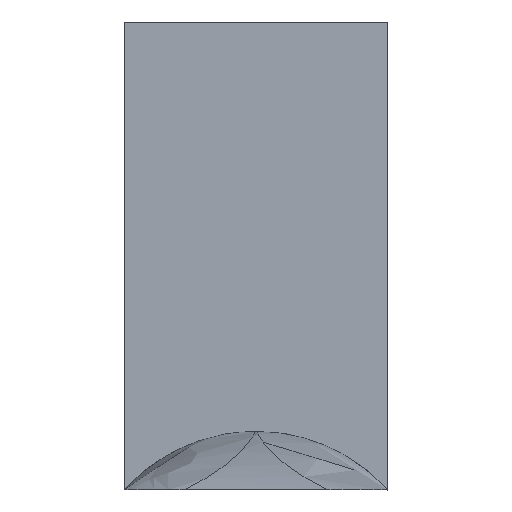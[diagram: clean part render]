
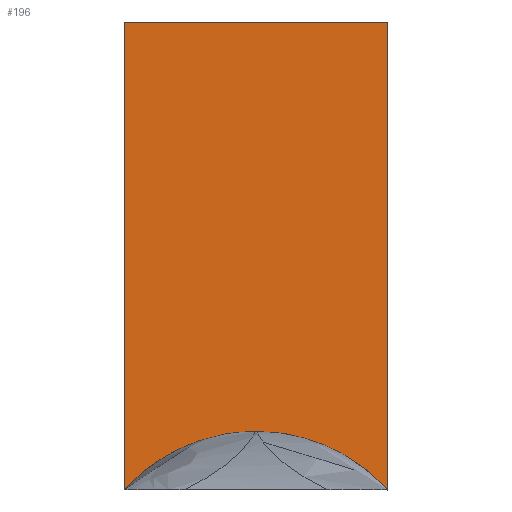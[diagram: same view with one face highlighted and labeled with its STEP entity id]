
A CAD part, left-side view. The second image highlights one B-rep face of the part: STEP entity #196.
In plain terms, the highlighted planar face has unit normal (-1, 0, 0).
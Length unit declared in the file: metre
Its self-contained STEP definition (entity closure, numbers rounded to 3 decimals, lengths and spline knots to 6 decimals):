
#25=LINE('',#274,#43);
#26=LINE('',#276,#44);
#27=LINE('',#278,#45);
#28=LINE('',#282,#46);
#43=VECTOR('',#231,1.);
#44=VECTOR('',#232,1.);
#45=VECTOR('',#233,1.);
#46=VECTOR('',#236,1.);
#61=ORIENTED_EDGE('',*,*,#117,.T.);
#62=ORIENTED_EDGE('',*,*,#118,.T.);
#63=ORIENTED_EDGE('',*,*,#119,.T.);
#64=ORIENTED_EDGE('',*,*,#120,.F.);
#65=ORIENTED_EDGE('',*,*,#121,.T.);
#66=ORIENTED_EDGE('',*,*,#122,.T.);
#117=EDGE_CURVE('',#145,#146,#163,.F.);
#118=EDGE_CURVE('',#146,#147,#25,.T.);
#119=EDGE_CURVE('',#147,#148,#26,.T.);
#120=EDGE_CURVE('',#149,#148,#27,.T.);
#121=EDGE_CURVE('',#149,#150,#164,.T.);
#122=EDGE_CURVE('',#150,#145,#28,.F.);
#145=VERTEX_POINT('',#272);
#146=VERTEX_POINT('',#273);
#147=VERTEX_POINT('',#275);
#148=VERTEX_POINT('',#277);
#149=VERTEX_POINT('',#279);
#150=VERTEX_POINT('',#281);
#163=CIRCLE('',#214,0.0003);
#164=CIRCLE('',#215,0.0003);
#165=EDGE_LOOP('',(#61,#62,#63,#64,#65,#66));
#177=FACE_BOUND('',#165,.T.);
#189=PLANE('',#213);
#196=ADVANCED_FACE('',(#177),#189,.F.);
#213=AXIS2_PLACEMENT_3D('',#270,#227,#228);
#214=AXIS2_PLACEMENT_3D('',#271,#229,#230);
#215=AXIS2_PLACEMENT_3D('',#280,#234,#235);
#227=DIRECTION('',(1.,0.,0.));
#228=DIRECTION('',(0.,1.,0.));
#229=DIRECTION('',(-1.,0.,0.));
#230=DIRECTION('',(0.,0.,-1.));
#231=DIRECTION('',(0.,0.,1.));
#232=DIRECTION('',(0.,1.,0.));
#233=DIRECTION('',(0.,0.,1.));
#234=DIRECTION('',(1.,0.,0.));
#235=DIRECTION('',(0.,0.,1.));
#236=DIRECTION('',(0.,1.,0.));
#270=CARTESIAN_POINT('',(0.012798,-0.00405,-0.0284));
#271=CARTESIAN_POINT('',(0.012798,-0.003826,-0.0286));
#272=CARTESIAN_POINT('',(0.012798,-0.003826,-0.0283));
#273=CARTESIAN_POINT('',(0.012798,-0.00405,-0.0284));
#274=CARTESIAN_POINT('',(0.012798,-0.00405,-0.0284));
#275=CARTESIAN_POINT('',(0.012798,-0.00405,-0.0276));
#276=CARTESIAN_POINT('',(0.012798,-0.00405,-0.0276));
#277=CARTESIAN_POINT('',(0.012798,-0.0036,-0.0276));
#278=CARTESIAN_POINT('',(0.012798,-0.0036,-0.0284));
#279=CARTESIAN_POINT('',(0.012798,-0.0036,-0.0284));
#280=CARTESIAN_POINT('',(0.012798,-0.003824,-0.0286));
#281=CARTESIAN_POINT('',(0.012798,-0.003824,-0.0283));
#282=CARTESIAN_POINT('',(0.012798,-0.00405,-0.0283));
